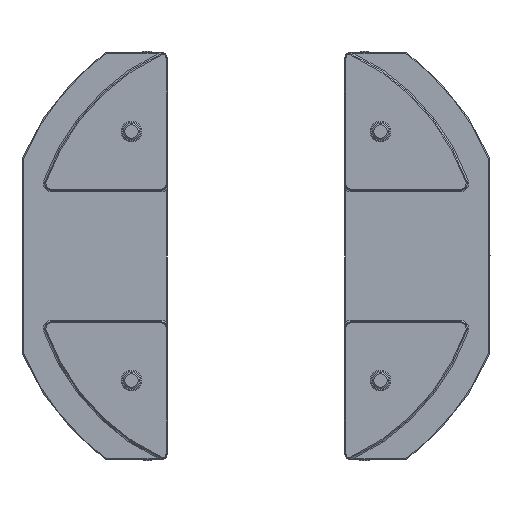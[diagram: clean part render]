
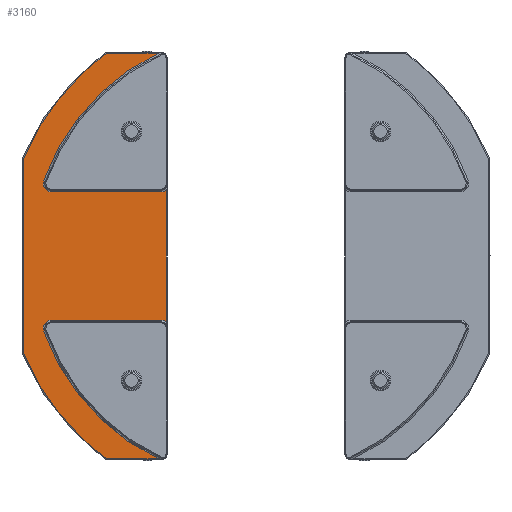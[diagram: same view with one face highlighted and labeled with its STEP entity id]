
A CAD part, front view. The second image highlights one B-rep face of the part: STEP entity #3160.
In plain terms, the highlighted planar face has unit normal (0, -1, 0).
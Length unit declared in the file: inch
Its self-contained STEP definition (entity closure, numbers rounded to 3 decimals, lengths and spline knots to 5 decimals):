
#4 = ORIENTED_EDGE ( 'NONE', *, *, #869, .T. ) ;
#40 = CARTESIAN_POINT ( 'NONE',  ( 0., 1.25, 0. ) ) ;
#56 = CIRCLE ( 'NONE', #3747, 0.155 ) ;
#84 = AXIS2_PLACEMENT_3D ( 'NONE', #3858, #4754, #460 ) ;
#120 = CARTESIAN_POINT ( 'NONE',  ( -1.8594, 1.25, 3.855 ) ) ;
#145 = DIRECTION ( 'NONE',  ( 0., 0., -1. ) ) ;
#168 = LINE ( 'NONE', #2078, #3452 ) ;
#207 = VERTEX_POINT ( 'NONE', #5784 ) ;
#327 = DIRECTION ( 'NONE',  ( 0., 0., -1. ) ) ;
#368 = CIRCLE ( 'NONE', #2643, 0.155 ) ;
#420 = LINE ( 'NONE', #5187, #3549 ) ;
#443 = DIRECTION ( 'NONE',  ( -1., 0., 0. ) ) ;
#460 = DIRECTION ( 'NONE',  ( 0., 0., -1. ) ) ;
#509 = DIRECTION ( 'NONE',  ( 0., 0., -1. ) ) ;
#629 = ORIENTED_EDGE ( 'NONE', *, *, #5613, .T. ) ;
#699 = DIRECTION ( 'NONE',  ( 0., 0., -1. ) ) ;
#724 = ORIENTED_EDGE ( 'NONE', *, *, #3106, .T. ) ;
#771 = DIRECTION ( 'NONE',  ( 0., -1., 0. ) ) ;
#795 = VERTEX_POINT ( 'NONE', #1792 ) ;
#869 = EDGE_CURVE ( 'NONE', #5919, #5210, #56, .T. ) ;
#887 = CARTESIAN_POINT ( 'NONE',  ( -1.7075, 1.25, 1.26098 ) ) ;
#890 = CARTESIAN_POINT ( 'NONE',  ( 0., 1.25, 0. ) ) ;
#997 = EDGE_CURVE ( 'NONE', #5497, #795, #6159, .T. ) ;
#1084 = DIRECTION ( 'NONE',  ( 0., 0., 1. ) ) ;
#1088 = LINE ( 'NONE', #5841, #5278 ) ;
#1193 = VECTOR ( 'NONE', #5201, 39.37008 ) ;
#1339 = VERTEX_POINT ( 'NONE', #5137 ) ;
#1388 = ORIENTED_EDGE ( 'NONE', *, *, #3994, .T. ) ;
#1390 = CARTESIAN_POINT ( 'NONE',  ( -2.84728, 1.25, 3.855 ) ) ;
#1425 = EDGE_LOOP ( 'NONE', ( #5160, #5352, #4507, #2179, #1685, #1388, #4218, #3015, #5447, #4, #2000, #629, #724, #5472 ) ) ;
#1463 = AXIS2_PLACEMENT_3D ( 'NONE', #40, #1916, #6184 ) ;
#1501 = DIRECTION ( 'NONE',  ( 0., -1., 0. ) ) ;
#1528 = CARTESIAN_POINT ( 'NONE',  ( -1.8125, 1.25, 1.375 ) ) ;
#1563 = DIRECTION ( 'NONE',  ( 0., 1., 0. ) ) ;
#1649 = EDGE_CURVE ( 'NONE', #5811, #2090, #5858, .T. ) ;
#1685 = ORIENTED_EDGE ( 'NONE', *, *, #997, .T. ) ;
#1692 = CARTESIAN_POINT ( 'NONE',  ( -4.03522, 1.25, -1.42667 ) ) ;
#1792 = CARTESIAN_POINT ( 'NONE',  ( -2.84728, 1.25, -3.855 ) ) ;
#1916 = DIRECTION ( 'NONE',  ( 0., 1., 0. ) ) ;
#2000 = ORIENTED_EDGE ( 'NONE', *, *, #6039, .T. ) ;
#2078 = CARTESIAN_POINT ( 'NONE',  ( -1.7075, 1.25, 0. ) ) ;
#2090 = VERTEX_POINT ( 'NONE', #1692 ) ;
#2153 = AXIS2_PLACEMENT_3D ( 'NONE', #890, #5591, #2753 ) ;
#2166 = DIRECTION ( 'NONE',  ( 0., 0., -1. ) ) ;
#2179 = ORIENTED_EDGE ( 'NONE', *, *, #5320, .T. ) ;
#2259 = DIRECTION ( 'NONE',  ( 0., 0., -1. ) ) ;
#2316 = DIRECTION ( 'NONE',  ( 0., 0., -1. ) ) ;
#2395 = LINE ( 'NONE', #5716, #1193 ) ;
#2643 = AXIS2_PLACEMENT_3D ( 'NONE', #1528, #1563, #145 ) ;
#2645 = LINE ( 'NONE', #4064, #3908 ) ;
#2744 = EDGE_CURVE ( 'NONE', #5609, #4944, #420, .T. ) ;
#2753 = DIRECTION ( 'NONE',  ( 0., 0., -1. ) ) ;
#3015 = ORIENTED_EDGE ( 'NONE', *, *, #4010, .T. ) ;
#3016 = CARTESIAN_POINT ( 'NONE',  ( -4.4175, 1.25, 0. ) ) ;
#3067 = CIRCLE ( 'NONE', #84, 0.155 ) ;
#3106 = EDGE_CURVE ( 'NONE', #4345, #4080, #1088, .T. ) ;
#3160 = ADVANCED_FACE ( 'NONE', ( #5967 ), #5057, .T. ) ;
#3263 = CIRCLE ( 'NONE', #5573, 0.155 ) ;
#3279 = CARTESIAN_POINT ( 'NONE',  ( 0., 1.25, 0. ) ) ;
#3346 = CARTESIAN_POINT ( 'NONE',  ( -4.4175, 1.25, 1.85843 ) ) ;
#3375 = CIRCLE ( 'NONE', #5467, 4.7925 ) ;
#3452 = VECTOR ( 'NONE', #1084, 39.37008 ) ;
#3519 = DIRECTION ( 'NONE',  ( 1., 0., 0. ) ) ;
#3549 = VECTOR ( 'NONE', #443, 39.37008 ) ;
#3596 = CARTESIAN_POINT ( 'NONE',  ( -1.8125, 1.25, -1.375 ) ) ;
#3747 = AXIS2_PLACEMENT_3D ( 'NONE', #3596, #4098, #2166 ) ;
#3858 = CARTESIAN_POINT ( 'NONE',  ( -3.88909, 1.25, -1.375 ) ) ;
#3908 = VECTOR ( 'NONE', #3519, 39.37008 ) ;
#3994 = EDGE_CURVE ( 'NONE', #795, #5811, #2395, .T. ) ;
#4010 = EDGE_CURVE ( 'NONE', #2090, #1339, #3067, .T. ) ;
#4064 = CARTESIAN_POINT ( 'NONE',  ( 0., 1.25, -1.22 ) ) ;
#4080 = VERTEX_POINT ( 'NONE', #5743 ) ;
#4098 = DIRECTION ( 'NONE',  ( 0., 1., 0. ) ) ;
#4116 = VECTOR ( 'NONE', #699, 39.37008 ) ;
#4149 = CIRCLE ( 'NONE', #1463, 4.28 ) ;
#4218 = ORIENTED_EDGE ( 'NONE', *, *, #1649, .T. ) ;
#4258 = CARTESIAN_POINT ( 'NONE',  ( -1.8594, 1.25, -3.855 ) ) ;
#4302 = CARTESIAN_POINT ( 'NONE',  ( -1.7075, 1.25, -1.26098 ) ) ;
#4345 = VERTEX_POINT ( 'NONE', #6002 ) ;
#4490 = VERTEX_POINT ( 'NONE', #3346 ) ;
#4507 = ORIENTED_EDGE ( 'NONE', *, *, #4521, .T. ) ;
#4508 = DIRECTION ( 'NONE',  ( 0., 1., 0. ) ) ;
#4521 = EDGE_CURVE ( 'NONE', #4944, #4490, #3375, .T. ) ;
#4544 = CARTESIAN_POINT ( 'NONE',  ( 0., 1.25, 0. ) ) ;
#4709 = CARTESIAN_POINT ( 'NONE',  ( 0., 1.25, 0. ) ) ;
#4720 = CARTESIAN_POINT ( 'NONE',  ( -4.4175, 1.25, -1.85843 ) ) ;
#4754 = DIRECTION ( 'NONE',  ( 0., 1., 0. ) ) ;
#4944 = VERTEX_POINT ( 'NONE', #1390 ) ;
#4979 = VERTEX_POINT ( 'NONE', #887 ) ;
#5057 = PLANE ( 'NONE',  #5272 ) ;
#5137 = CARTESIAN_POINT ( 'NONE',  ( -3.88909, 1.25, -1.22 ) ) ;
#5160 = ORIENTED_EDGE ( 'NONE', *, *, #5916, .T. ) ;
#5187 = CARTESIAN_POINT ( 'NONE',  ( -2.8125, 1.25, 3.855 ) ) ;
#5201 = DIRECTION ( 'NONE',  ( 1., 0., 0. ) ) ;
#5210 = VERTEX_POINT ( 'NONE', #4302 ) ;
#5272 = AXIS2_PLACEMENT_3D ( 'NONE', #4544, #771, #327 ) ;
#5278 = VECTOR ( 'NONE', #5908, 39.37008 ) ;
#5320 = EDGE_CURVE ( 'NONE', #4490, #5497, #5579, .T. ) ;
#5325 = EDGE_CURVE ( 'NONE', #1339, #5919, #2645, .T. ) ;
#5352 = ORIENTED_EDGE ( 'NONE', *, *, #2744, .T. ) ;
#5447 = ORIENTED_EDGE ( 'NONE', *, *, #5325, .T. ) ;
#5467 = AXIS2_PLACEMENT_3D ( 'NONE', #4709, #6182, #2316 ) ;
#5472 = ORIENTED_EDGE ( 'NONE', *, *, #6113, .T. ) ;
#5497 = VERTEX_POINT ( 'NONE', #4720 ) ;
#5573 = AXIS2_PLACEMENT_3D ( 'NONE', #5619, #4508, #2259 ) ;
#5579 = LINE ( 'NONE', #3016, #4116 ) ;
#5591 = DIRECTION ( 'NONE',  ( 0., 1., 0. ) ) ;
#5609 = VERTEX_POINT ( 'NONE', #120 ) ;
#5613 = EDGE_CURVE ( 'NONE', #4979, #4345, #368, .T. ) ;
#5619 = CARTESIAN_POINT ( 'NONE',  ( -3.88909, 1.25, 1.375 ) ) ;
#5648 = AXIS2_PLACEMENT_3D ( 'NONE', #3279, #1501, #509 ) ;
#5716 = CARTESIAN_POINT ( 'NONE',  ( -1.81735, 1.25, -3.855 ) ) ;
#5736 = CARTESIAN_POINT ( 'NONE',  ( -1.8125, 1.25, -1.22 ) ) ;
#5743 = CARTESIAN_POINT ( 'NONE',  ( -3.88909, 1.25, 1.22 ) ) ;
#5784 = CARTESIAN_POINT ( 'NONE',  ( -4.03522, 1.25, 1.42667 ) ) ;
#5811 = VERTEX_POINT ( 'NONE', #4258 ) ;
#5841 = CARTESIAN_POINT ( 'NONE',  ( 0., 1.25, 1.22 ) ) ;
#5858 = CIRCLE ( 'NONE', #2153, 4.28 ) ;
#5908 = DIRECTION ( 'NONE',  ( -1., 0., 0. ) ) ;
#5916 = EDGE_CURVE ( 'NONE', #207, #5609, #4149, .T. ) ;
#5919 = VERTEX_POINT ( 'NONE', #5736 ) ;
#5967 = FACE_OUTER_BOUND ( 'NONE', #1425, .T. ) ;
#6002 = CARTESIAN_POINT ( 'NONE',  ( -1.8125, 1.25, 1.22 ) ) ;
#6039 = EDGE_CURVE ( 'NONE', #5210, #4979, #168, .T. ) ;
#6113 = EDGE_CURVE ( 'NONE', #4080, #207, #3263, .T. ) ;
#6159 = CIRCLE ( 'NONE', #5648, 4.7925 ) ;
#6182 = DIRECTION ( 'NONE',  ( 0., -1., 0. ) ) ;
#6184 = DIRECTION ( 'NONE',  ( 0., 0., -1. ) ) ;
